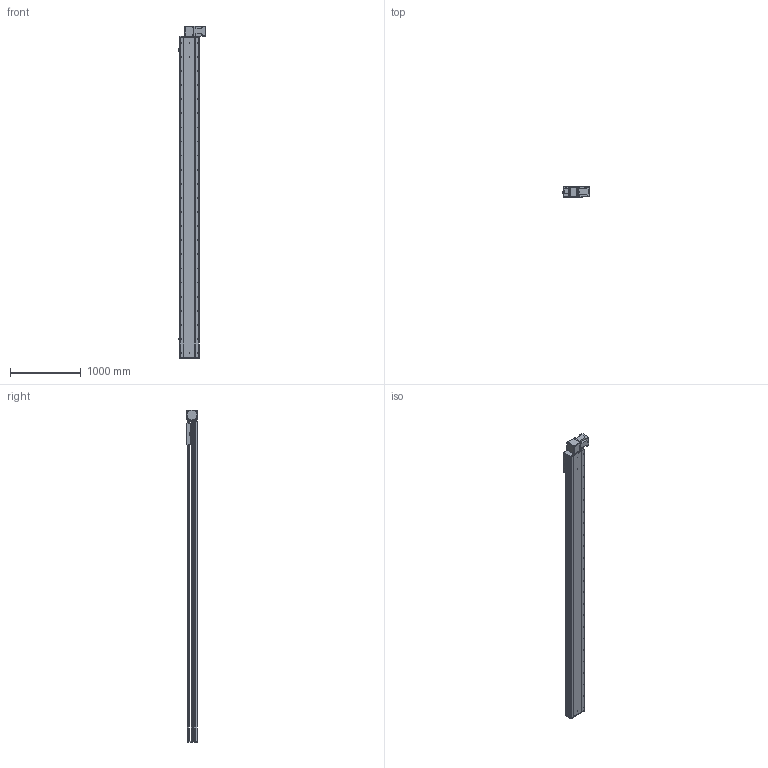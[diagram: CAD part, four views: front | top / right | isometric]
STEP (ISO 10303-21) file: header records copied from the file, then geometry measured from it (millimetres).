
FILE_DESCRIPTION (( 'STEP AP214' ), '1' );
FILE_NAME ('RTB28S-XX-4100-BL-M100-XX-C4.STEP', '2025-12-22T02:44:07', ( '' ), ( '' ), 'SwSTEP 2.0', 'SolidWorks 2018', '' );
FILE_SCHEMA (( 'AUTOMOTIVE_DESIGN' ));
Length unit declared in the file: millimetre
Products named in the file (4): RTB28S-GY-004^RTB28S-XX-XX-BL-M100-XX-C4; RTB28S-GY-011^RTB28S-XX-XX-BL-M100-XX-C4; RTB28S-GY-008^RTB28S-XX-XX-BL-M100-XX-C4; RTB28S-XX-4100-BL-M100-XX-C4
Assembly tree (3 placements, depth 2):
  RTB28S-XX-4100-BL-M100-XX-C4
    RTB28S-GY-011^RTB28S-XX-XX-BL-M100-XX-C4
    RTB28S-GY-004^RTB28S-XX-XX-BL-M100-XX-C4
    RTB28S-GY-008^RTB28S-XX-XX-BL-M100-XX-C4
Bounding box: 380.7 x 145 x 4707 mm (x, y, z)
Volume: 78439507.9 mm3; surface area: 7265388.5 mm2
Topology: 3 solids, 4 shells, 938 faces, 2538 edges, 1628 vertices
Faces by surface type: cylinder 479, plane 375, cone 80, torus 4
Entity records: 36803 total; most frequent: CARTESIAN_POINT 7252, DIRECTION 5412, ORIENTED_EDGE 5012, EDGE_CURVE 2506, AXIS2_PLACEMENT_3D 2016, VERTEX_POINT 1628, VECTOR 1380, LINE 1380
